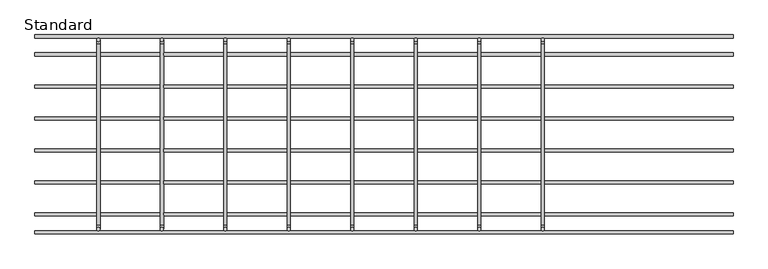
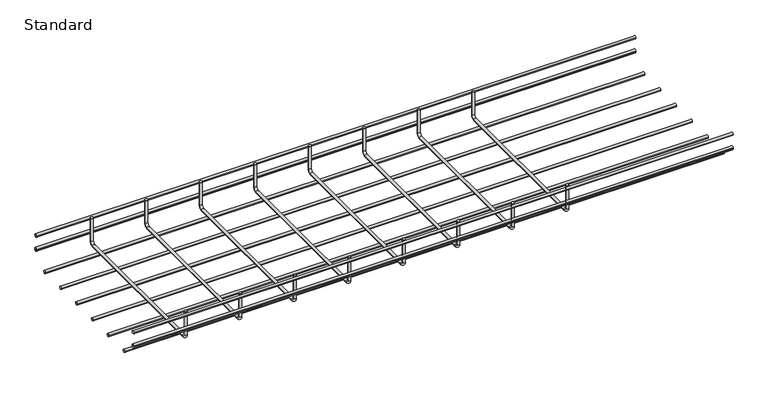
"""IFC4 building model written with IfcOpenShell, lengths in millimetres: cable carrier fitting geometry, CableTray_Atkore-Straight-Length : Standard."""

from ifc_helpers import new_model, si_unit, point, frame, frame_2d, origin, place, context, project, spatial, circle_curve, ellipse_curve, trimmed, segment, composite_curve, outline, extrude, source, transform, mapped, element, save
from ifc_brep_helpers import plane_surface, cylinder_surface, revolved_surface, advanced_brep


def standard_7ae58fae(model_context):
    return source(origin(), model_context, "Body", "SolidModel", [
        extrude(outline(composite_curve([segment(trimmed(circle_curve(frame_2d((73.4025, -25.9357812)), 2.54), [point((70.8625, -25.9357812))], [point((75.9425, -25.9357812))], False, "CARTESIAN"), True, "CONTINUOUS"), segment(trimmed(circle_curve(frame_2d((73.4025, -25.9357812)), 2.54), [point((75.9425, -25.9357812))], [point((70.8625, -25.9357812))], False, "CARTESIAN"), True, "CONTINUOUS")], self_intersect=False)), frame((0.0, 0.0, 0.0), z_axis=(1.0, 0.0, 0.0), x_axis=(0.0, 1.0, 0.0)), (0.0, 0.0, 1.0), 1067.1706596),
        extrude(outline(composite_curve([segment(trimmed(circle_curve(frame_2d((24.4675, -25.9357812)), 2.54), [point((21.9275, -25.9357812))], [point((27.0075, -25.9357812))], False, "CARTESIAN"), True, "CONTINUOUS"), segment(trimmed(circle_curve(frame_2d((24.4675, -25.9357812)), 2.54), [point((27.0075, -25.9357812))], [point((21.9275, -25.9357812))], False, "CARTESIAN"), True, "CONTINUOUS")], self_intersect=False)), frame((0.0, 0.0, 0.0), z_axis=(1.0, 0.0, 0.0), x_axis=(0.0, 1.0, 0.0)), (0.0, 0.0, 1.0), 1067.1706596),
        extrude(outline(composite_curve([segment(trimmed(circle_curve(frame_2d((-24.4675, -25.9357812)), 2.54), [point((-27.0075, -25.9357812))], [point((-21.9275, -25.9357812))], False, "CARTESIAN"), True, "CONTINUOUS"), segment(trimmed(circle_curve(frame_2d((-24.4675, -25.9357812)), 2.54), [point((-21.9275, -25.9357812))], [point((-27.0075, -25.9357812))], False, "CARTESIAN"), True, "CONTINUOUS")], self_intersect=False)), frame((0.0, 0.0, 0.0), z_axis=(1.0, 0.0, 0.0), x_axis=(0.0, 1.0, 0.0)), (0.0, 0.0, 1.0), 1067.1706596),
        extrude(outline(composite_curve([segment(trimmed(circle_curve(frame_2d((-73.4025, -25.9357812)), 2.54), [point((-75.9425, -25.9357812))], [point((-70.8625, -25.9357812))], False, "CARTESIAN"), True, "CONTINUOUS"), segment(trimmed(circle_curve(frame_2d((-73.4025, -25.9357812)), 2.54), [point((-70.8625, -25.9357812))], [point((-75.9425, -25.9357812))], False, "CARTESIAN"), True, "CONTINUOUS")], self_intersect=False)), frame((0.0, 0.0, 0.0), z_axis=(1.0, 0.0, 0.0), x_axis=(0.0, 1.0, 0.0)), (0.0, 0.0, 1.0), 1067.1706596),
        advanced_brep(
        [(94.4755145, -144.88, 28.4757813), (99.5555145, -144.88, 28.4757813), (94.4755145, -144.88, -14.8133594), (99.5555145, -144.88, -14.8133594), (99.5555145, -138.8375781, -20.8557812), (94.4755145, -138.8375781, -20.8557812), (94.4755145, 138.53, -20.8557812), (99.5555145, 138.53, -20.8557812), (99.5555145, 144.88, -14.5057812), (94.4755145, 144.88, -14.5057812), (94.4755145, 144.88, 28.4757813), (99.5555145, 144.88, 28.4757813)],
        [
            (0, 1, circle_curve(frame((97.0155145, -144.88, 28.4757813), z_axis=(0.0, 0.0, 1.0), x_axis=(1.0, 0.0, 0.0)), 2.54)),
            (1, 0, circle_curve(frame((97.0155145, -144.88, 28.4757813), z_axis=(0.0, 0.0, 1.0), x_axis=(1.0, 0.0, 0.0)), 2.54)),
            (0, 2),
            (2, 3, circle_curve(frame((97.0155145, -144.88, -14.8133594), z_axis=(0.0, 0.0, 1.0), x_axis=(1.0, 0.0, 0.0)), 2.54)),
            (3, 1),
            (3, 2, circle_curve(frame((97.0155145, -144.88, -14.8133594), z_axis=(0.0, 0.0, 1.0), x_axis=(1.0, 0.0, 0.0)), 2.54)),
            (4, 3, circle_curve(frame((99.5555145, -138.8375781, -14.8133594), z_axis=(-1.0, 0.0, 0.0), x_axis=(0.0, -1.0, 0.0)), 6.0424219)),
            (2, 5, circle_curve(frame((94.4755145, -138.8375781, -14.8133594), z_axis=(1.0, 0.0, 0.0), x_axis=(0.0, -1.0, 0.0)), 6.0424219)),
            (5, 4, circle_curve(frame((97.0155145, -138.8375781, -20.8557812), z_axis=(0.0, -1.0, 0.0), x_axis=(1.0, 0.0, 0.0)), 2.54)),
            (4, 5, circle_curve(frame((97.0155145, -138.8375781, -20.8557812), z_axis=(0.0, -1.0, 0.0), x_axis=(1.0, 0.0, 0.0)), 2.54)),
            (5, 6),
            (6, 7, circle_curve(frame((97.0155145, 138.53, -20.8557812), z_axis=(0.0, -1.0, 0.0), x_axis=(1.0, 0.0, 0.0)), 2.54)),
            (7, 4),
            (7, 6, circle_curve(frame((97.0155145, 138.53, -20.8557812), z_axis=(0.0, -1.0, 0.0), x_axis=(1.0, 0.0, 0.0)), 2.54)),
            (8, 7, circle_curve(frame((99.5555145, 138.53, -14.5057812), z_axis=(-1.0, 0.0, 0.0), x_axis=(0.0, 0.0, -1.0)), 6.35)),
            (6, 9, circle_curve(frame((94.4755145, 138.53, -14.5057812), z_axis=(1.0, 0.0, 0.0), x_axis=(0.0, 0.0, -1.0)), 6.35)),
            (9, 8, circle_curve(frame((97.0155145, 144.88, -14.5057812), z_axis=(0.0, 0.0, -1.0), x_axis=(1.0, 0.0, 0.0)), 2.54)),
            (8, 9, circle_curve(frame((97.0155145, 144.88, -14.5057812), z_axis=(0.0, 0.0, -1.0), x_axis=(1.0, 0.0, 0.0)), 2.54)),
            (10, 11, circle_curve(frame((97.0155145, 144.88, 28.4757813), z_axis=(0.0, 0.0, 1.0), x_axis=(1.0, 0.0, 0.0)), 2.54)),
            (11, 10, circle_curve(frame((97.0155145, 144.88, 28.4757813), z_axis=(0.0, 0.0, 1.0), x_axis=(1.0, 0.0, 0.0)), 2.54)),
            (9, 10),
            (11, 8),
        ],
        [
            plane_surface(frame((97.0155145, -144.88, 28.4757813), z_axis=(0.0, 0.0, 1.0), x_axis=(1.0, 0.0, 0.0))),
            cylinder_surface(frame((97.0155145, -144.88, 28.4757813), z_axis=(0.0, 0.0, 1.0), x_axis=(1.0, 0.0, 0.0)), 2.54),
            revolved_surface(trimmed(ellipse_curve(frame((97.0155145, -144.88, -14.8133594), z_axis=(0.0, 0.0, 1.0), x_axis=(1.0, 0.0, 0.0)), 2.54, 2.54), [point((94.4755145, -144.88, -14.8133594))], [point((99.5555145, -144.88, -14.8133594))], True, "CARTESIAN"), (97.0155145, -138.8375781, -14.8133594), (1.0, 0.0, 0.0)),
            revolved_surface(trimmed(ellipse_curve(frame((97.0155145, -144.88, -14.8133594), z_axis=(0.0, 0.0, 1.0), x_axis=(1.0, 0.0, 0.0)), 2.54, 2.54), [point((99.5555145, -144.88, -14.8133594))], [point((94.4755145, -144.88, -14.8133594))], True, "CARTESIAN"), (97.0155145, -138.8375781, -14.8133594), (1.0, 0.0, 0.0)),
            cylinder_surface(frame((97.0155145, -138.8375781, -20.8557812), z_axis=(0.0, -1.0, 0.0), x_axis=(1.0, 0.0, 0.0)), 2.54),
            revolved_surface(trimmed(ellipse_curve(frame((97.0155145, 138.53, -20.8557812), z_axis=(0.0, -1.0, 0.0), x_axis=(1.0, 0.0, 0.0)), 2.54, 2.54), [point((94.4755145, 138.53, -20.8557812))], [point((99.5555145, 138.53, -20.8557812))], True, "CARTESIAN"), (97.0155145, 138.53, -14.5057812), (1.0, 0.0, 0.0)),
            revolved_surface(trimmed(ellipse_curve(frame((97.0155145, 138.53, -20.8557812), z_axis=(0.0, -1.0, 0.0), x_axis=(1.0, 0.0, 0.0)), 2.54, 2.54), [point((99.5555145, 138.53, -20.8557812))], [point((94.4755145, 138.53, -20.8557812))], True, "CARTESIAN"), (97.0155145, 138.53, -14.5057812), (1.0, 0.0, 0.0)),
            plane_surface(frame((97.0155145, 144.88, 28.4757813), z_axis=(0.0, 0.0, 1.0), x_axis=(1.0, 0.0, 0.0))),
            cylinder_surface(frame((97.0155145, 144.88, -14.5057812), z_axis=(0.0, 0.0, -1.0), x_axis=(1.0, 0.0, 0.0)), 2.54),
        ],
        [
            (0, [[1, 2]]),
            (1, [[-1, 3, 4, 5]]),
            (1, [[-2, -5, 6, -3]]),
            (2, [[7, -4, 8, 9]]),
            (3, [[-8, -6, -7, 10]]),
            (4, [[-9, 11, 12, 13]]),
            (4, [[-10, -13, 14, -11]]),
            (5, [[15, -12, 16, 17]]),
            (6, [[-16, -14, -15, 18]]),
            (7, [[19, 20]]),
            (8, [[-17, 21, -20, 22]]),
            (8, [[-18, -22, -19, -21]]),
        ],
    ),
        advanced_brep(
        [(191.491029, -144.88, 28.4757813), (196.571029, -144.88, 28.4757813), (191.491029, -144.88, -14.8133594), (196.571029, -144.88, -14.8133594), (196.571029, -138.8375781, -20.8557812), (191.491029, -138.8375781, -20.8557812), (191.491029, 138.53, -20.8557812), (196.571029, 138.53, -20.8557812), (196.571029, 144.88, -14.5057812), (191.491029, 144.88, -14.5057812), (191.491029, 144.88, 28.4757813), (196.571029, 144.88, 28.4757813)],
        [
            (0, 1, circle_curve(frame((194.031029, -144.88, 28.4757813), z_axis=(0.0, 0.0, 1.0), x_axis=(1.0, 0.0, 0.0)), 2.54)),
            (1, 0, circle_curve(frame((194.031029, -144.88, 28.4757813), z_axis=(0.0, 0.0, 1.0), x_axis=(1.0, 0.0, 0.0)), 2.54)),
            (0, 2),
            (2, 3, circle_curve(frame((194.031029, -144.88, -14.8133594), z_axis=(0.0, 0.0, 1.0), x_axis=(1.0, 0.0, 0.0)), 2.54)),
            (3, 1),
            (3, 2, circle_curve(frame((194.031029, -144.88, -14.8133594), z_axis=(0.0, 0.0, 1.0), x_axis=(1.0, 0.0, 0.0)), 2.54)),
            (4, 3, circle_curve(frame((196.571029, -138.8375781, -14.8133594), z_axis=(-1.0, 0.0, 0.0), x_axis=(0.0, -1.0, 0.0)), 6.0424219)),
            (2, 5, circle_curve(frame((191.491029, -138.8375781, -14.8133594), z_axis=(1.0, 0.0, 0.0), x_axis=(0.0, -1.0, 0.0)), 6.0424219)),
            (5, 4, circle_curve(frame((194.031029, -138.8375781, -20.8557812), z_axis=(0.0, -1.0, 0.0), x_axis=(1.0, 0.0, 0.0)), 2.54)),
            (4, 5, circle_curve(frame((194.031029, -138.8375781, -20.8557812), z_axis=(0.0, -1.0, 0.0), x_axis=(1.0, 0.0, 0.0)), 2.54)),
            (5, 6),
            (6, 7, circle_curve(frame((194.031029, 138.53, -20.8557812), z_axis=(0.0, -1.0, 0.0), x_axis=(1.0, 0.0, 0.0)), 2.54)),
            (7, 4),
            (7, 6, circle_curve(frame((194.031029, 138.53, -20.8557812), z_axis=(0.0, -1.0, 0.0), x_axis=(1.0, 0.0, 0.0)), 2.54)),
            (8, 7, circle_curve(frame((196.571029, 138.53, -14.5057812), z_axis=(-1.0, 0.0, 0.0), x_axis=(0.0, 0.0, -1.0)), 6.35)),
            (6, 9, circle_curve(frame((191.491029, 138.53, -14.5057812), z_axis=(1.0, 0.0, 0.0), x_axis=(0.0, 0.0, -1.0)), 6.35)),
            (9, 8, circle_curve(frame((194.031029, 144.88, -14.5057812), z_axis=(0.0, 0.0, -1.0), x_axis=(1.0, 0.0, 0.0)), 2.54)),
            (8, 9, circle_curve(frame((194.031029, 144.88, -14.5057812), z_axis=(0.0, 0.0, -1.0), x_axis=(1.0, 0.0, 0.0)), 2.54)),
            (10, 11, circle_curve(frame((194.031029, 144.88, 28.4757813), z_axis=(0.0, 0.0, 1.0), x_axis=(1.0, 0.0, 0.0)), 2.54)),
            (11, 10, circle_curve(frame((194.031029, 144.88, 28.4757813), z_axis=(0.0, 0.0, 1.0), x_axis=(1.0, 0.0, 0.0)), 2.54)),
            (9, 10),
            (11, 8),
        ],
        [
            plane_surface(frame((194.031029, -144.88, 28.4757813), z_axis=(0.0, 0.0, 1.0), x_axis=(1.0, 0.0, 0.0))),
            cylinder_surface(frame((194.031029, -144.88, 28.4757813), z_axis=(0.0, 0.0, 1.0), x_axis=(1.0, 0.0, 0.0)), 2.54),
            revolved_surface(trimmed(ellipse_curve(frame((194.031029, -144.88, -14.8133594), z_axis=(0.0, 0.0, 1.0), x_axis=(1.0, 0.0, 0.0)), 2.54, 2.54), [point((191.491029, -144.88, -14.8133594))], [point((196.571029, -144.88, -14.8133594))], True, "CARTESIAN"), (194.031029, -138.8375781, -14.8133594), (1.0, 0.0, 0.0)),
            revolved_surface(trimmed(ellipse_curve(frame((194.031029, -144.88, -14.8133594), z_axis=(0.0, 0.0, 1.0), x_axis=(1.0, 0.0, 0.0)), 2.54, 2.54), [point((196.571029, -144.88, -14.8133594))], [point((191.491029, -144.88, -14.8133594))], True, "CARTESIAN"), (194.031029, -138.8375781, -14.8133594), (1.0, 0.0, 0.0)),
            cylinder_surface(frame((194.031029, -138.8375781, -20.8557812), z_axis=(0.0, -1.0, 0.0), x_axis=(1.0, 0.0, 0.0)), 2.54),
            revolved_surface(trimmed(ellipse_curve(frame((194.031029, 138.53, -20.8557812), z_axis=(0.0, -1.0, 0.0), x_axis=(1.0, 0.0, 0.0)), 2.54, 2.54), [point((191.491029, 138.53, -20.8557812))], [point((196.571029, 138.53, -20.8557812))], True, "CARTESIAN"), (194.031029, 138.53, -14.5057812), (1.0, 0.0, 0.0)),
            revolved_surface(trimmed(ellipse_curve(frame((194.031029, 138.53, -20.8557812), z_axis=(0.0, -1.0, 0.0), x_axis=(1.0, 0.0, 0.0)), 2.54, 2.54), [point((196.571029, 138.53, -20.8557812))], [point((191.491029, 138.53, -20.8557812))], True, "CARTESIAN"), (194.031029, 138.53, -14.5057812), (1.0, 0.0, 0.0)),
            plane_surface(frame((194.031029, 144.88, 28.4757813), z_axis=(0.0, 0.0, 1.0), x_axis=(1.0, 0.0, 0.0))),
            cylinder_surface(frame((194.031029, 144.88, -14.5057812), z_axis=(0.0, 0.0, -1.0), x_axis=(1.0, 0.0, 0.0)), 2.54),
        ],
        [
            (0, [[1, 2]]),
            (1, [[-1, 3, 4, 5]]),
            (1, [[-2, -5, 6, -3]]),
            (2, [[7, -4, 8, 9]]),
            (3, [[-8, -6, -7, 10]]),
            (4, [[-9, 11, 12, 13]]),
            (4, [[-10, -13, 14, -11]]),
            (5, [[15, -12, 16, 17]]),
            (6, [[-16, -14, -15, 18]]),
            (7, [[19, 20]]),
            (8, [[-17, 21, -20, 22]]),
            (8, [[-18, -22, -19, -21]]),
        ],
    ),
        advanced_brep(
        [(288.5065435, -144.88, 28.4757813), (293.5865435, -144.88, 28.4757813), (288.5065435, -144.88, -14.8133594), (293.5865435, -144.88, -14.8133594), (293.5865435, -138.8375781, -20.8557812), (288.5065435, -138.8375781, -20.8557812), (288.5065435, 138.53, -20.8557812), (293.5865435, 138.53, -20.8557812), (293.5865435, 144.88, -14.5057812), (288.5065435, 144.88, -14.5057812), (288.5065435, 144.88, 28.4757813), (293.5865435, 144.88, 28.4757813)],
        [
            (0, 1, circle_curve(frame((291.0465435, -144.88, 28.4757813), z_axis=(0.0, 0.0, 1.0), x_axis=(1.0, 0.0, 0.0)), 2.54)),
            (1, 0, circle_curve(frame((291.0465435, -144.88, 28.4757813), z_axis=(0.0, 0.0, 1.0), x_axis=(1.0, 0.0, 0.0)), 2.54)),
            (0, 2),
            (2, 3, circle_curve(frame((291.0465435, -144.88, -14.8133594), z_axis=(0.0, 0.0, 1.0), x_axis=(1.0, 0.0, 0.0)), 2.54)),
            (3, 1),
            (3, 2, circle_curve(frame((291.0465435, -144.88, -14.8133594), z_axis=(0.0, 0.0, 1.0), x_axis=(1.0, 0.0, 0.0)), 2.54)),
            (4, 3, circle_curve(frame((293.5865435, -138.8375781, -14.8133594), z_axis=(-1.0, 0.0, 0.0), x_axis=(0.0, -1.0, 0.0)), 6.0424219)),
            (2, 5, circle_curve(frame((288.5065435, -138.8375781, -14.8133594), z_axis=(1.0, 0.0, 0.0), x_axis=(0.0, -1.0, 0.0)), 6.0424219)),
            (5, 4, circle_curve(frame((291.0465435, -138.8375781, -20.8557812), z_axis=(0.0, -1.0, 0.0), x_axis=(1.0, 0.0, 0.0)), 2.54)),
            (4, 5, circle_curve(frame((291.0465435, -138.8375781, -20.8557812), z_axis=(0.0, -1.0, 0.0), x_axis=(1.0, 0.0, 0.0)), 2.54)),
            (5, 6),
            (6, 7, circle_curve(frame((291.0465435, 138.53, -20.8557812), z_axis=(0.0, -1.0, 0.0), x_axis=(1.0, 0.0, 0.0)), 2.54)),
            (7, 4),
            (7, 6, circle_curve(frame((291.0465435, 138.53, -20.8557812), z_axis=(0.0, -1.0, 0.0), x_axis=(1.0, 0.0, 0.0)), 2.54)),
            (8, 7, circle_curve(frame((293.5865435, 138.53, -14.5057812), z_axis=(-1.0, 0.0, 0.0), x_axis=(0.0, 0.0, -1.0)), 6.35)),
            (6, 9, circle_curve(frame((288.5065435, 138.53, -14.5057812), z_axis=(1.0, 0.0, 0.0), x_axis=(0.0, 0.0, -1.0)), 6.35)),
            (9, 8, circle_curve(frame((291.0465435, 144.88, -14.5057812), z_axis=(0.0, 0.0, -1.0), x_axis=(1.0, 0.0, 0.0)), 2.54)),
            (8, 9, circle_curve(frame((291.0465435, 144.88, -14.5057812), z_axis=(0.0, 0.0, -1.0), x_axis=(1.0, 0.0, 0.0)), 2.54)),
            (10, 11, circle_curve(frame((291.0465435, 144.88, 28.4757813), z_axis=(0.0, 0.0, 1.0), x_axis=(1.0, 0.0, 0.0)), 2.54)),
            (11, 10, circle_curve(frame((291.0465435, 144.88, 28.4757813), z_axis=(0.0, 0.0, 1.0), x_axis=(1.0, 0.0, 0.0)), 2.54)),
            (9, 10),
            (11, 8),
        ],
        [
            plane_surface(frame((291.0465435, -144.88, 28.4757813), z_axis=(0.0, 0.0, 1.0), x_axis=(1.0, 0.0, 0.0))),
            cylinder_surface(frame((291.0465435, -144.88, 28.4757813), z_axis=(0.0, 0.0, 1.0), x_axis=(1.0, 0.0, 0.0)), 2.54),
            revolved_surface(trimmed(ellipse_curve(frame((291.0465435, -144.88, -14.8133594), z_axis=(0.0, 0.0, 1.0), x_axis=(1.0, 0.0, 0.0)), 2.54, 2.54), [point((288.5065435, -144.88, -14.8133594))], [point((293.5865435, -144.88, -14.8133594))], True, "CARTESIAN"), (291.0465435, -138.8375781, -14.8133594), (1.0, 0.0, 0.0)),
            revolved_surface(trimmed(ellipse_curve(frame((291.0465435, -144.88, -14.8133594), z_axis=(0.0, 0.0, 1.0), x_axis=(1.0, 0.0, 0.0)), 2.54, 2.54), [point((293.5865435, -144.88, -14.8133594))], [point((288.5065435, -144.88, -14.8133594))], True, "CARTESIAN"), (291.0465435, -138.8375781, -14.8133594), (1.0, 0.0, 0.0)),
            cylinder_surface(frame((291.0465435, -138.8375781, -20.8557812), z_axis=(0.0, -1.0, 0.0), x_axis=(1.0, 0.0, 0.0)), 2.54),
            revolved_surface(trimmed(ellipse_curve(frame((291.0465435, 138.53, -20.8557812), z_axis=(0.0, -1.0, 0.0), x_axis=(1.0, 0.0, 0.0)), 2.54, 2.54), [point((288.5065435, 138.53, -20.8557812))], [point((293.5865435, 138.53, -20.8557812))], True, "CARTESIAN"), (291.0465435, 138.53, -14.5057812), (1.0, 0.0, 0.0)),
            revolved_surface(trimmed(ellipse_curve(frame((291.0465435, 138.53, -20.8557812), z_axis=(0.0, -1.0, 0.0), x_axis=(1.0, 0.0, 0.0)), 2.54, 2.54), [point((293.5865435, 138.53, -20.8557812))], [point((288.5065435, 138.53, -20.8557812))], True, "CARTESIAN"), (291.0465435, 138.53, -14.5057812), (1.0, 0.0, 0.0)),
            plane_surface(frame((291.0465435, 144.88, 28.4757813), z_axis=(0.0, 0.0, 1.0), x_axis=(1.0, 0.0, 0.0))),
            cylinder_surface(frame((291.0465435, 144.88, -14.5057812), z_axis=(0.0, 0.0, -1.0), x_axis=(1.0, 0.0, 0.0)), 2.54),
        ],
        [
            (0, [[1, 2]]),
            (1, [[-1, 3, 4, 5]]),
            (1, [[-2, -5, 6, -3]]),
            (2, [[7, -4, 8, 9]]),
            (3, [[-8, -6, -7, 10]]),
            (4, [[-9, 11, 12, 13]]),
            (4, [[-10, -13, 14, -11]]),
            (5, [[15, -12, 16, 17]]),
            (6, [[-16, -14, -15, 18]]),
            (7, [[19, 20]]),
            (8, [[-17, 21, -20, 22]]),
            (8, [[-18, -22, -19, -21]]),
        ],
    ),
        advanced_brep(
        [(385.522058, -144.88, 28.4757813), (390.602058, -144.88, 28.4757813), (385.522058, -144.88, -14.8133594), (390.602058, -144.88, -14.8133594), (390.602058, -138.8375781, -20.8557812), (385.522058, -138.8375781, -20.8557812), (385.522058, 138.53, -20.8557812), (390.602058, 138.53, -20.8557812), (390.602058, 144.88, -14.5057812), (385.522058, 144.88, -14.5057812), (385.522058, 144.88, 28.4757813), (390.602058, 144.88, 28.4757813)],
        [
            (0, 1, circle_curve(frame((388.062058, -144.88, 28.4757813), z_axis=(0.0, 0.0, 1.0), x_axis=(1.0, 0.0, 0.0)), 2.54)),
            (1, 0, circle_curve(frame((388.062058, -144.88, 28.4757813), z_axis=(0.0, 0.0, 1.0), x_axis=(1.0, 0.0, 0.0)), 2.54)),
            (0, 2),
            (2, 3, circle_curve(frame((388.062058, -144.88, -14.8133594), z_axis=(0.0, 0.0, 1.0), x_axis=(1.0, 0.0, 0.0)), 2.54)),
            (3, 1),
            (3, 2, circle_curve(frame((388.062058, -144.88, -14.8133594), z_axis=(0.0, 0.0, 1.0), x_axis=(1.0, 0.0, 0.0)), 2.54)),
            (4, 3, circle_curve(frame((390.602058, -138.8375781, -14.8133594), z_axis=(-1.0, 0.0, 0.0), x_axis=(0.0, -1.0, 0.0)), 6.0424219)),
            (2, 5, circle_curve(frame((385.522058, -138.8375781, -14.8133594), z_axis=(1.0, 0.0, 0.0), x_axis=(0.0, -1.0, 0.0)), 6.0424219)),
            (5, 4, circle_curve(frame((388.062058, -138.8375781, -20.8557812), z_axis=(0.0, -1.0, 0.0), x_axis=(1.0, 0.0, 0.0)), 2.54)),
            (4, 5, circle_curve(frame((388.062058, -138.8375781, -20.8557812), z_axis=(0.0, -1.0, 0.0), x_axis=(1.0, 0.0, 0.0)), 2.54)),
            (5, 6),
            (6, 7, circle_curve(frame((388.062058, 138.53, -20.8557812), z_axis=(0.0, -1.0, 0.0), x_axis=(1.0, 0.0, 0.0)), 2.54)),
            (7, 4),
            (7, 6, circle_curve(frame((388.062058, 138.53, -20.8557812), z_axis=(0.0, -1.0, 0.0), x_axis=(1.0, 0.0, 0.0)), 2.54)),
            (8, 7, circle_curve(frame((390.602058, 138.53, -14.5057812), z_axis=(-1.0, 0.0, 0.0), x_axis=(0.0, 0.0, -1.0)), 6.35)),
            (6, 9, circle_curve(frame((385.522058, 138.53, -14.5057812), z_axis=(1.0, 0.0, 0.0), x_axis=(0.0, 0.0, -1.0)), 6.35)),
            (9, 8, circle_curve(frame((388.062058, 144.88, -14.5057812), z_axis=(0.0, 0.0, -1.0), x_axis=(1.0, 0.0, 0.0)), 2.54)),
            (8, 9, circle_curve(frame((388.062058, 144.88, -14.5057812), z_axis=(0.0, 0.0, -1.0), x_axis=(1.0, 0.0, 0.0)), 2.54)),
            (10, 11, circle_curve(frame((388.062058, 144.88, 28.4757813), z_axis=(0.0, 0.0, 1.0), x_axis=(1.0, 0.0, 0.0)), 2.54)),
            (11, 10, circle_curve(frame((388.062058, 144.88, 28.4757813), z_axis=(0.0, 0.0, 1.0), x_axis=(1.0, 0.0, 0.0)), 2.54)),
            (9, 10),
            (11, 8),
        ],
        [
            plane_surface(frame((388.062058, -144.88, 28.4757813), z_axis=(0.0, 0.0, 1.0), x_axis=(1.0, 0.0, 0.0))),
            cylinder_surface(frame((388.062058, -144.88, 28.4757813), z_axis=(0.0, 0.0, 1.0), x_axis=(1.0, 0.0, 0.0)), 2.54),
            revolved_surface(trimmed(ellipse_curve(frame((388.062058, -144.88, -14.8133594), z_axis=(0.0, 0.0, 1.0), x_axis=(1.0, 0.0, 0.0)), 2.54, 2.54), [point((385.522058, -144.88, -14.8133594))], [point((390.602058, -144.88, -14.8133594))], True, "CARTESIAN"), (388.062058, -138.8375781, -14.8133594), (1.0, 0.0, 0.0)),
            revolved_surface(trimmed(ellipse_curve(frame((388.062058, -144.88, -14.8133594), z_axis=(0.0, 0.0, 1.0), x_axis=(1.0, 0.0, 0.0)), 2.54, 2.54), [point((390.602058, -144.88, -14.8133594))], [point((385.522058, -144.88, -14.8133594))], True, "CARTESIAN"), (388.062058, -138.8375781, -14.8133594), (1.0, 0.0, 0.0)),
            cylinder_surface(frame((388.062058, -138.8375781, -20.8557812), z_axis=(0.0, -1.0, 0.0), x_axis=(1.0, 0.0, 0.0)), 2.54),
            revolved_surface(trimmed(ellipse_curve(frame((388.062058, 138.53, -20.8557812), z_axis=(0.0, -1.0, 0.0), x_axis=(1.0, 0.0, 0.0)), 2.54, 2.54), [point((385.522058, 138.53, -20.8557812))], [point((390.602058, 138.53, -20.8557812))], True, "CARTESIAN"), (388.062058, 138.53, -14.5057812), (1.0, 0.0, 0.0)),
            revolved_surface(trimmed(ellipse_curve(frame((388.062058, 138.53, -20.8557812), z_axis=(0.0, -1.0, 0.0), x_axis=(1.0, 0.0, 0.0)), 2.54, 2.54), [point((390.602058, 138.53, -20.8557812))], [point((385.522058, 138.53, -20.8557812))], True, "CARTESIAN"), (388.062058, 138.53, -14.5057812), (1.0, 0.0, 0.0)),
            plane_surface(frame((388.062058, 144.88, 28.4757813), z_axis=(0.0, 0.0, 1.0), x_axis=(1.0, 0.0, 0.0))),
            cylinder_surface(frame((388.062058, 144.88, -14.5057812), z_axis=(0.0, 0.0, -1.0), x_axis=(1.0, 0.0, 0.0)), 2.54),
        ],
        [
            (0, [[1, 2]]),
            (1, [[-1, 3, 4, 5]]),
            (1, [[-2, -5, 6, -3]]),
            (2, [[7, -4, 8, 9]]),
            (3, [[-8, -6, -7, 10]]),
            (4, [[-9, 11, 12, 13]]),
            (4, [[-10, -13, 14, -11]]),
            (5, [[15, -12, 16, 17]]),
            (6, [[-16, -14, -15, 18]]),
            (7, [[19, 20]]),
            (8, [[-17, 21, -20, 22]]),
            (8, [[-18, -22, -19, -21]]),
        ],
    ),
        advanced_brep(
        [(482.5375725, -144.88, 28.4757813), (487.6175725, -144.88, 28.4757813), (482.5375725, -144.88, -14.8133594), (487.6175725, -144.88, -14.8133594), (487.6175725, -138.8375781, -20.8557812), (482.5375725, -138.8375781, -20.8557812), (482.5375725, 138.53, -20.8557812), (487.6175725, 138.53, -20.8557812), (487.6175725, 144.88, -14.5057812), (482.5375725, 144.88, -14.5057812), (482.5375725, 144.88, 28.4757813), (487.6175725, 144.88, 28.4757813)],
        [
            (0, 1, circle_curve(frame((485.0775725, -144.88, 28.4757813), z_axis=(0.0, 0.0, 1.0), x_axis=(1.0, 0.0, 0.0)), 2.54)),
            (1, 0, circle_curve(frame((485.0775725, -144.88, 28.4757813), z_axis=(0.0, 0.0, 1.0), x_axis=(1.0, 0.0, 0.0)), 2.54)),
            (0, 2),
            (2, 3, circle_curve(frame((485.0775725, -144.88, -14.8133594), z_axis=(0.0, 0.0, 1.0), x_axis=(1.0, 0.0, 0.0)), 2.54)),
            (3, 1),
            (3, 2, circle_curve(frame((485.0775725, -144.88, -14.8133594), z_axis=(0.0, 0.0, 1.0), x_axis=(1.0, 0.0, 0.0)), 2.54)),
            (4, 3, circle_curve(frame((487.6175725, -138.8375781, -14.8133594), z_axis=(-1.0, 0.0, 0.0), x_axis=(0.0, -1.0, 0.0)), 6.0424219)),
            (2, 5, circle_curve(frame((482.5375725, -138.8375781, -14.8133594), z_axis=(1.0, 0.0, 0.0), x_axis=(0.0, -1.0, 0.0)), 6.0424219)),
            (5, 4, circle_curve(frame((485.0775725, -138.8375781, -20.8557812), z_axis=(0.0, -1.0, 0.0), x_axis=(1.0, 0.0, 0.0)), 2.54)),
            (4, 5, circle_curve(frame((485.0775725, -138.8375781, -20.8557812), z_axis=(0.0, -1.0, 0.0), x_axis=(1.0, 0.0, 0.0)), 2.54)),
            (5, 6),
            (6, 7, circle_curve(frame((485.0775725, 138.53, -20.8557812), z_axis=(0.0, -1.0, 0.0), x_axis=(1.0, 0.0, 0.0)), 2.54)),
            (7, 4),
            (7, 6, circle_curve(frame((485.0775725, 138.53, -20.8557812), z_axis=(0.0, -1.0, 0.0), x_axis=(1.0, 0.0, 0.0)), 2.54)),
            (8, 7, circle_curve(frame((487.6175725, 138.53, -14.5057812), z_axis=(-1.0, 0.0, 0.0), x_axis=(0.0, 0.0, -1.0)), 6.35)),
            (6, 9, circle_curve(frame((482.5375725, 138.53, -14.5057812), z_axis=(1.0, 0.0, 0.0), x_axis=(0.0, 0.0, -1.0)), 6.35)),
            (9, 8, circle_curve(frame((485.0775725, 144.88, -14.5057812), z_axis=(0.0, 0.0, -1.0), x_axis=(1.0, 0.0, 0.0)), 2.54)),
            (8, 9, circle_curve(frame((485.0775725, 144.88, -14.5057812), z_axis=(0.0, 0.0, -1.0), x_axis=(1.0, 0.0, 0.0)), 2.54)),
            (10, 11, circle_curve(frame((485.0775725, 144.88, 28.4757813), z_axis=(0.0, 0.0, 1.0), x_axis=(1.0, 0.0, 0.0)), 2.54)),
            (11, 10, circle_curve(frame((485.0775725, 144.88, 28.4757813), z_axis=(0.0, 0.0, 1.0), x_axis=(1.0, 0.0, 0.0)), 2.54)),
            (9, 10),
            (11, 8),
        ],
        [
            plane_surface(frame((485.0775725, -144.88, 28.4757813), z_axis=(0.0, 0.0, 1.0), x_axis=(1.0, 0.0, 0.0))),
            cylinder_surface(frame((485.0775725, -144.88, 28.4757813), z_axis=(0.0, 0.0, 1.0), x_axis=(1.0, 0.0, 0.0)), 2.54),
            revolved_surface(trimmed(ellipse_curve(frame((485.0775725, -144.88, -14.8133594), z_axis=(0.0, 0.0, 1.0), x_axis=(1.0, 0.0, 0.0)), 2.54, 2.54), [point((482.5375725, -144.88, -14.8133594))], [point((487.6175725, -144.88, -14.8133594))], True, "CARTESIAN"), (485.0775725, -138.8375781, -14.8133594), (1.0, 0.0, 0.0)),
            revolved_surface(trimmed(ellipse_curve(frame((485.0775725, -144.88, -14.8133594), z_axis=(0.0, 0.0, 1.0), x_axis=(1.0, 0.0, 0.0)), 2.54, 2.54), [point((487.6175725, -144.88, -14.8133594))], [point((482.5375725, -144.88, -14.8133594))], True, "CARTESIAN"), (485.0775725, -138.8375781, -14.8133594), (1.0, 0.0, 0.0)),
            cylinder_surface(frame((485.0775725, -138.8375781, -20.8557812), z_axis=(0.0, -1.0, 0.0), x_axis=(1.0, 0.0, 0.0)), 2.54),
            revolved_surface(trimmed(ellipse_curve(frame((485.0775725, 138.53, -20.8557812), z_axis=(0.0, -1.0, 0.0), x_axis=(1.0, 0.0, 0.0)), 2.54, 2.54), [point((482.5375725, 138.53, -20.8557812))], [point((487.6175725, 138.53, -20.8557812))], True, "CARTESIAN"), (485.0775725, 138.53, -14.5057812), (1.0, 0.0, 0.0)),
            revolved_surface(trimmed(ellipse_curve(frame((485.0775725, 138.53, -20.8557812), z_axis=(0.0, -1.0, 0.0), x_axis=(1.0, 0.0, 0.0)), 2.54, 2.54), [point((487.6175725, 138.53, -20.8557812))], [point((482.5375725, 138.53, -20.8557812))], True, "CARTESIAN"), (485.0775725, 138.53, -14.5057812), (1.0, 0.0, 0.0)),
            plane_surface(frame((485.0775725, 144.88, 28.4757813), z_axis=(0.0, 0.0, 1.0), x_axis=(1.0, 0.0, 0.0))),
            cylinder_surface(frame((485.0775725, 144.88, -14.5057812), z_axis=(0.0, 0.0, -1.0), x_axis=(1.0, 0.0, 0.0)), 2.54),
        ],
        [
            (0, [[1, 2]]),
            (1, [[-1, 3, 4, 5]]),
            (1, [[-2, -5, 6, -3]]),
            (2, [[7, -4, 8, 9]]),
            (3, [[-8, -6, -7, 10]]),
            (4, [[-9, 11, 12, 13]]),
            (4, [[-10, -13, 14, -11]]),
            (5, [[15, -12, 16, 17]]),
            (6, [[-16, -14, -15, 18]]),
            (7, [[19, 20]]),
            (8, [[-17, 21, -20, 22]]),
            (8, [[-18, -22, -19, -21]]),
        ],
    ),
        extrude(outline(composite_curve([segment(trimmed(circle_curve(frame_2d((149.96, 0.681454)), 2.54), [point((152.5, 0.681454))], [point((147.42, 0.681454))], False, "CARTESIAN"), True, "CONTINUOUS"), segment(trimmed(circle_curve(frame_2d((149.96, 0.681454)), 2.54), [point((147.42, 0.681454))], [point((152.5, 0.681454))], False, "CARTESIAN"), True, "CONTINUOUS")], self_intersect=False)), frame((0.0, 0.0, 0.0), z_axis=(1.0, 0.0, 0.0), x_axis=(0.0, 1.0, 0.0)), (0.0, 0.0, 1.0), 1067.1706596),
        extrude(outline(composite_curve([segment(trimmed(circle_curve(frame_2d((149.96, -1.0517187)), 2.54), [point((152.5, -1.0517187))], [point((147.42, -1.0517187))], False, "CARTESIAN"), True, "CONTINUOUS"), segment(trimmed(circle_curve(frame_2d((149.96, -1.0517187)), 2.54), [point((147.42, -1.0517187))], [point((152.5, -1.0517187))], False, "CARTESIAN"), True, "CONTINUOUS")], self_intersect=False)), frame((0.0, 0.0, 0.0), z_axis=(1.0, 0.0, 0.0), x_axis=(0.0, 1.0, 0.0)), (0.0, 0.0, 1.0), 1067.1706596),
        extrude(outline(composite_curve([segment(trimmed(circle_curve(frame_2d((-149.96, -1.0517187)), 2.54), [point((-152.5, -1.0517187))], [point((-147.42, -1.0517187))], False, "CARTESIAN"), True, "CONTINUOUS"), segment(trimmed(circle_curve(frame_2d((-149.96, -1.0517187)), 2.54), [point((-147.42, -1.0517187))], [point((-152.5, -1.0517187))], False, "CARTESIAN"), True, "CONTINUOUS")], self_intersect=False)), frame((0.0, 0.0, 0.0), z_axis=(1.0, 0.0, 0.0), x_axis=(0.0, 1.0, 0.0)), (0.0, 0.0, 1.0), 1067.1706596),
        extrude(outline(composite_curve([segment(trimmed(circle_curve(frame_2d((-149.96, 0.681454)), 2.54), [point((-152.5, 0.681454))], [point((-147.42, 0.681454))], False, "CARTESIAN"), True, "CONTINUOUS"), segment(trimmed(circle_curve(frame_2d((-149.96, 0.681454)), 2.54), [point((-147.42, 0.681454))], [point((-152.5, 0.681454))], False, "CARTESIAN"), True, "CONTINUOUS")], self_intersect=False)), frame((0.0, 0.0, 0.0), z_axis=(1.0, 0.0, 0.0), x_axis=(0.0, 1.0, 0.0)), (0.0, 0.0, 1.0), 1067.1706596),
        extrude(outline(composite_curve([segment(trimmed(circle_curve(frame_2d((122.3375, -25.9357812)), 2.54), [point((119.7975, -25.9357812))], [point((124.8775, -25.9357812))], False, "CARTESIAN"), True, "CONTINUOUS"), segment(trimmed(circle_curve(frame_2d((122.3375, -25.9357812)), 2.54), [point((124.8775, -25.9357812))], [point((119.7975, -25.9357812))], False, "CARTESIAN"), True, "CONTINUOUS")], self_intersect=False)), frame((0.0, 0.0, 0.0), z_axis=(1.0, 0.0, 0.0), x_axis=(0.0, 1.0, 0.0)), (0.0, 0.0, 1.0), 1067.1706596),
        advanced_brep(
        [(579.5530871, -144.88, 28.4757813), (584.6330871, -144.88, 28.4757813), (579.5530871, -144.88, -14.8133594), (584.6330871, -144.88, -14.8133594), (584.6330871, -138.8375781, -20.8557812), (579.5530871, -138.8375781, -20.8557812), (579.5530871, 138.53, -20.8557812), (584.6330871, 138.53, -20.8557812), (584.6330871, 144.88, -14.5057812), (579.5530871, 144.88, -14.5057812), (579.5530871, 144.88, 28.4757813), (584.6330871, 144.88, 28.4757813)],
        [
            (0, 1, circle_curve(frame((582.0930871, -144.88, 28.4757813), z_axis=(0.0, 0.0, 1.0), x_axis=(1.0, 0.0, 0.0)), 2.54)),
            (1, 0, circle_curve(frame((582.0930871, -144.88, 28.4757813), z_axis=(0.0, 0.0, 1.0), x_axis=(1.0, 0.0, 0.0)), 2.54)),
            (0, 2),
            (2, 3, circle_curve(frame((582.0930871, -144.88, -14.8133594), z_axis=(0.0, 0.0, 1.0), x_axis=(1.0, 0.0, 0.0)), 2.54)),
            (3, 1),
            (3, 2, circle_curve(frame((582.0930871, -144.88, -14.8133594), z_axis=(0.0, 0.0, 1.0), x_axis=(1.0, 0.0, 0.0)), 2.54)),
            (4, 3, circle_curve(frame((584.6330871, -138.8375781, -14.8133594), z_axis=(-1.0, 0.0, 0.0), x_axis=(0.0, -1.0, 0.0)), 6.0424219)),
            (2, 5, circle_curve(frame((579.5530871, -138.8375781, -14.8133594), z_axis=(1.0, 0.0, 0.0), x_axis=(0.0, -1.0, 0.0)), 6.0424219)),
            (5, 4, circle_curve(frame((582.0930871, -138.8375781, -20.8557812), z_axis=(0.0, -1.0, 0.0), x_axis=(1.0, 0.0, 0.0)), 2.54)),
            (4, 5, circle_curve(frame((582.0930871, -138.8375781, -20.8557812), z_axis=(0.0, -1.0, 0.0), x_axis=(1.0, 0.0, 0.0)), 2.54)),
            (5, 6),
            (6, 7, circle_curve(frame((582.0930871, 138.53, -20.8557812), z_axis=(0.0, -1.0, 0.0), x_axis=(1.0, 0.0, 0.0)), 2.54)),
            (7, 4),
            (7, 6, circle_curve(frame((582.0930871, 138.53, -20.8557812), z_axis=(0.0, -1.0, 0.0), x_axis=(1.0, 0.0, 0.0)), 2.54)),
            (8, 7, circle_curve(frame((584.6330871, 138.53, -14.5057812), z_axis=(-1.0, 0.0, 0.0), x_axis=(0.0, 0.0, -1.0)), 6.35)),
            (6, 9, circle_curve(frame((579.5530871, 138.53, -14.5057812), z_axis=(1.0, 0.0, 0.0), x_axis=(0.0, 0.0, -1.0)), 6.35)),
            (9, 8, circle_curve(frame((582.0930871, 144.88, -14.5057812), z_axis=(0.0, 0.0, -1.0), x_axis=(1.0, 0.0, 0.0)), 2.54)),
            (8, 9, circle_curve(frame((582.0930871, 144.88, -14.5057812), z_axis=(0.0, 0.0, -1.0), x_axis=(1.0, 0.0, 0.0)), 2.54)),
            (10, 11, circle_curve(frame((582.0930871, 144.88, 28.4757813), z_axis=(0.0, 0.0, 1.0), x_axis=(1.0, 0.0, 0.0)), 2.54)),
            (11, 10, circle_curve(frame((582.0930871, 144.88, 28.4757813), z_axis=(0.0, 0.0, 1.0), x_axis=(1.0, 0.0, 0.0)), 2.54)),
            (9, 10),
            (11, 8),
        ],
        [
            plane_surface(frame((582.0930871, -144.88, 28.4757813), z_axis=(0.0, 0.0, 1.0), x_axis=(1.0, 0.0, 0.0))),
            cylinder_surface(frame((582.0930871, -144.88, 28.4757813), z_axis=(0.0, 0.0, 1.0), x_axis=(1.0, 0.0, 0.0)), 2.54),
            revolved_surface(trimmed(ellipse_curve(frame((582.0930871, -144.88, -14.8133594), z_axis=(0.0, 0.0, 1.0), x_axis=(1.0, 0.0, 0.0)), 2.54, 2.54), [point((579.5530871, -144.88, -14.8133594))], [point((584.6330871, -144.88, -14.8133594))], True, "CARTESIAN"), (582.0930871, -138.8375781, -14.8133594), (1.0, 0.0, 0.0)),
            revolved_surface(trimmed(ellipse_curve(frame((582.0930871, -144.88, -14.8133594), z_axis=(0.0, 0.0, 1.0), x_axis=(1.0, 0.0, 0.0)), 2.54, 2.54), [point((584.6330871, -144.88, -14.8133594))], [point((579.5530871, -144.88, -14.8133594))], True, "CARTESIAN"), (582.0930871, -138.8375781, -14.8133594), (1.0, 0.0, 0.0)),
            cylinder_surface(frame((582.0930871, -138.8375781, -20.8557812), z_axis=(0.0, -1.0, 0.0), x_axis=(1.0, 0.0, 0.0)), 2.54),
            revolved_surface(trimmed(ellipse_curve(frame((582.0930871, 138.53, -20.8557812), z_axis=(0.0, -1.0, 0.0), x_axis=(1.0, 0.0, 0.0)), 2.54, 2.54), [point((579.5530871, 138.53, -20.8557812))], [point((584.6330871, 138.53, -20.8557812))], True, "CARTESIAN"), (582.0930871, 138.53, -14.5057812), (1.0, 0.0, 0.0)),
            revolved_surface(trimmed(ellipse_curve(frame((582.0930871, 138.53, -20.8557812), z_axis=(0.0, -1.0, 0.0), x_axis=(1.0, 0.0, 0.0)), 2.54, 2.54), [point((584.6330871, 138.53, -20.8557812))], [point((579.5530871, 138.53, -20.8557812))], True, "CARTESIAN"), (582.0930871, 138.53, -14.5057812), (1.0, 0.0, 0.0)),
            plane_surface(frame((582.0930871, 144.88, 28.4757813), z_axis=(0.0, 0.0, 1.0), x_axis=(1.0, 0.0, 0.0))),
            cylinder_surface(frame((582.0930871, 144.88, -14.5057812), z_axis=(0.0, 0.0, -1.0), x_axis=(1.0, 0.0, 0.0)), 2.54),
        ],
        [
            (0, [[1, 2]]),
            (1, [[-1, 3, 4, 5]]),
            (1, [[-2, -5, 6, -3]]),
            (2, [[7, -4, 8, 9]]),
            (3, [[-8, -6, -7, 10]]),
            (4, [[-9, 11, 12, 13]]),
            (4, [[-10, -13, 14, -11]]),
            (5, [[15, -12, 16, 17]]),
            (6, [[-16, -14, -15, 18]]),
            (7, [[19, 20]]),
            (8, [[-17, 21, -20, 22]]),
            (8, [[-18, -22, -19, -21]]),
        ],
    ),
        advanced_brep(
        [(676.5686016, -144.88, 28.4757813), (681.6486016, -144.88, 28.4757813), (676.5686016, -144.88, -14.8133594), (681.6486016, -144.88, -14.8133594), (681.6486016, -138.8375781, -20.8557812), (676.5686016, -138.8375781, -20.8557812), (676.5686016, 138.53, -20.8557812), (681.6486016, 138.53, -20.8557812), (681.6486016, 144.88, -14.5057812), (676.5686016, 144.88, -14.5057812), (676.5686016, 144.88, 28.4757813), (681.6486016, 144.88, 28.4757813)],
        [
            (0, 1, circle_curve(frame((679.1086016, -144.88, 28.4757813), z_axis=(0.0, 0.0, 1.0), x_axis=(1.0, 0.0, 0.0)), 2.54)),
            (1, 0, circle_curve(frame((679.1086016, -144.88, 28.4757813), z_axis=(0.0, 0.0, 1.0), x_axis=(1.0, 0.0, 0.0)), 2.54)),
            (0, 2),
            (2, 3, circle_curve(frame((679.1086016, -144.88, -14.8133594), z_axis=(0.0, 0.0, 1.0), x_axis=(1.0, 0.0, 0.0)), 2.54)),
            (3, 1),
            (3, 2, circle_curve(frame((679.1086016, -144.88, -14.8133594), z_axis=(0.0, 0.0, 1.0), x_axis=(1.0, 0.0, 0.0)), 2.54)),
            (4, 3, circle_curve(frame((681.6486016, -138.8375781, -14.8133594), z_axis=(-1.0, 0.0, 0.0), x_axis=(0.0, -1.0, 0.0)), 6.0424219)),
            (2, 5, circle_curve(frame((676.5686016, -138.8375781, -14.8133594), z_axis=(1.0, 0.0, 0.0), x_axis=(0.0, -1.0, 0.0)), 6.0424219)),
            (5, 4, circle_curve(frame((679.1086016, -138.8375781, -20.8557812), z_axis=(0.0, -1.0, 0.0), x_axis=(1.0, 0.0, 0.0)), 2.54)),
            (4, 5, circle_curve(frame((679.1086016, -138.8375781, -20.8557812), z_axis=(0.0, -1.0, 0.0), x_axis=(1.0, 0.0, 0.0)), 2.54)),
            (5, 6),
            (6, 7, circle_curve(frame((679.1086016, 138.53, -20.8557812), z_axis=(0.0, -1.0, 0.0), x_axis=(1.0, 0.0, 0.0)), 2.54)),
            (7, 4),
            (7, 6, circle_curve(frame((679.1086016, 138.53, -20.8557812), z_axis=(0.0, -1.0, 0.0), x_axis=(1.0, 0.0, 0.0)), 2.54)),
            (8, 7, circle_curve(frame((681.6486016, 138.53, -14.5057812), z_axis=(-1.0, 0.0, 0.0), x_axis=(0.0, 0.0, -1.0)), 6.35)),
            (6, 9, circle_curve(frame((676.5686016, 138.53, -14.5057812), z_axis=(1.0, 0.0, 0.0), x_axis=(0.0, 0.0, -1.0)), 6.35)),
            (9, 8, circle_curve(frame((679.1086016, 144.88, -14.5057812), z_axis=(0.0, 0.0, -1.0), x_axis=(1.0, 0.0, 0.0)), 2.54)),
            (8, 9, circle_curve(frame((679.1086016, 144.88, -14.5057812), z_axis=(0.0, 0.0, -1.0), x_axis=(1.0, 0.0, 0.0)), 2.54)),
            (10, 11, circle_curve(frame((679.1086016, 144.88, 28.4757813), z_axis=(0.0, 0.0, 1.0), x_axis=(1.0, 0.0, 0.0)), 2.54)),
            (11, 10, circle_curve(frame((679.1086016, 144.88, 28.4757813), z_axis=(0.0, 0.0, 1.0), x_axis=(1.0, 0.0, 0.0)), 2.54)),
            (9, 10),
            (11, 8),
        ],
        [
            plane_surface(frame((679.1086016, -144.88, 28.4757813), z_axis=(0.0, 0.0, 1.0), x_axis=(1.0, 0.0, 0.0))),
            cylinder_surface(frame((679.1086016, -144.88, 28.4757813), z_axis=(0.0, 0.0, 1.0), x_axis=(1.0, 0.0, 0.0)), 2.54),
            revolved_surface(trimmed(ellipse_curve(frame((679.1086016, -144.88, -14.8133594), z_axis=(0.0, 0.0, 1.0), x_axis=(1.0, 0.0, 0.0)), 2.54, 2.54), [point((676.5686016, -144.88, -14.8133594))], [point((681.6486016, -144.88, -14.8133594))], True, "CARTESIAN"), (679.1086016, -138.8375781, -14.8133594), (1.0, 0.0, 0.0)),
            revolved_surface(trimmed(ellipse_curve(frame((679.1086016, -144.88, -14.8133594), z_axis=(0.0, 0.0, 1.0), x_axis=(1.0, 0.0, 0.0)), 2.54, 2.54), [point((681.6486016, -144.88, -14.8133594))], [point((676.5686016, -144.88, -14.8133594))], True, "CARTESIAN"), (679.1086016, -138.8375781, -14.8133594), (1.0, 0.0, 0.0)),
            cylinder_surface(frame((679.1086016, -138.8375781, -20.8557812), z_axis=(0.0, -1.0, 0.0), x_axis=(1.0, 0.0, 0.0)), 2.54),
            revolved_surface(trimmed(ellipse_curve(frame((679.1086016, 138.53, -20.8557812), z_axis=(0.0, -1.0, 0.0), x_axis=(1.0, 0.0, 0.0)), 2.54, 2.54), [point((676.5686016, 138.53, -20.8557812))], [point((681.6486016, 138.53, -20.8557812))], True, "CARTESIAN"), (679.1086016, 138.53, -14.5057812), (1.0, 0.0, 0.0)),
            revolved_surface(trimmed(ellipse_curve(frame((679.1086016, 138.53, -20.8557812), z_axis=(0.0, -1.0, 0.0), x_axis=(1.0, 0.0, 0.0)), 2.54, 2.54), [point((681.6486016, 138.53, -20.8557812))], [point((676.5686016, 138.53, -20.8557812))], True, "CARTESIAN"), (679.1086016, 138.53, -14.5057812), (1.0, 0.0, 0.0)),
            plane_surface(frame((679.1086016, 144.88, 28.4757813), z_axis=(0.0, 0.0, 1.0), x_axis=(1.0, 0.0, 0.0))),
            cylinder_surface(frame((679.1086016, 144.88, -14.5057812), z_axis=(0.0, 0.0, -1.0), x_axis=(1.0, 0.0, 0.0)), 2.54),
        ],
        [
            (0, [[1, 2]]),
            (1, [[-1, 3, 4, 5]]),
            (1, [[-2, -5, 6, -3]]),
            (2, [[7, -4, 8, 9]]),
            (3, [[-8, -6, -7, 10]]),
            (4, [[-9, 11, 12, 13]]),
            (4, [[-10, -13, 14, -11]]),
            (5, [[15, -12, 16, 17]]),
            (6, [[-16, -14, -15, 18]]),
            (7, [[19, 20]]),
            (8, [[-17, 21, -20, 22]]),
            (8, [[-18, -22, -19, -21]]),
        ],
    ),
        advanced_brep(
        [(773.5841161, -144.88, 28.4757813), (778.6641161, -144.88, 28.4757813), (773.5841161, -144.88, -14.8133594), (778.6641161, -144.88, -14.8133594), (778.6641161, -138.8375781, -20.8557812), (773.5841161, -138.8375781, -20.8557812), (773.5841161, 138.53, -20.8557812), (778.6641161, 138.53, -20.8557812), (778.6641161, 144.88, -14.5057812), (773.5841161, 144.88, -14.5057812), (773.5841161, 144.88, 28.4757813), (778.6641161, 144.88, 28.4757813)],
        [
            (0, 1, circle_curve(frame((776.1241161, -144.88, 28.4757813), z_axis=(0.0, 0.0, 1.0), x_axis=(1.0, 0.0, 0.0)), 2.54)),
            (1, 0, circle_curve(frame((776.1241161, -144.88, 28.4757813), z_axis=(0.0, 0.0, 1.0), x_axis=(1.0, 0.0, 0.0)), 2.54)),
            (0, 2),
            (2, 3, circle_curve(frame((776.1241161, -144.88, -14.8133594), z_axis=(0.0, 0.0, 1.0), x_axis=(1.0, 0.0, 0.0)), 2.54)),
            (3, 1),
            (3, 2, circle_curve(frame((776.1241161, -144.88, -14.8133594), z_axis=(0.0, 0.0, 1.0), x_axis=(1.0, 0.0, 0.0)), 2.54)),
            (4, 3, circle_curve(frame((778.6641161, -138.8375781, -14.8133594), z_axis=(-1.0, 0.0, 0.0), x_axis=(0.0, -1.0, 0.0)), 6.0424219)),
            (2, 5, circle_curve(frame((773.5841161, -138.8375781, -14.8133594), z_axis=(1.0, 0.0, 0.0), x_axis=(0.0, -1.0, 0.0)), 6.0424219)),
            (5, 4, circle_curve(frame((776.1241161, -138.8375781, -20.8557812), z_axis=(0.0, -1.0, 0.0), x_axis=(1.0, 0.0, 0.0)), 2.54)),
            (4, 5, circle_curve(frame((776.1241161, -138.8375781, -20.8557812), z_axis=(0.0, -1.0, 0.0), x_axis=(1.0, 0.0, 0.0)), 2.54)),
            (5, 6),
            (6, 7, circle_curve(frame((776.1241161, 138.53, -20.8557812), z_axis=(0.0, -1.0, 0.0), x_axis=(1.0, 0.0, 0.0)), 2.54)),
            (7, 4),
            (7, 6, circle_curve(frame((776.1241161, 138.53, -20.8557812), z_axis=(0.0, -1.0, 0.0), x_axis=(1.0, 0.0, 0.0)), 2.54)),
            (8, 7, circle_curve(frame((778.6641161, 138.53, -14.5057812), z_axis=(-1.0, 0.0, 0.0), x_axis=(0.0, 0.0, -1.0)), 6.35)),
            (6, 9, circle_curve(frame((773.5841161, 138.53, -14.5057812), z_axis=(1.0, 0.0, 0.0), x_axis=(0.0, 0.0, -1.0)), 6.35)),
            (9, 8, circle_curve(frame((776.1241161, 144.88, -14.5057812), z_axis=(0.0, 0.0, -1.0), x_axis=(1.0, 0.0, 0.0)), 2.54)),
            (8, 9, circle_curve(frame((776.1241161, 144.88, -14.5057812), z_axis=(0.0, 0.0, -1.0), x_axis=(1.0, 0.0, 0.0)), 2.54)),
            (10, 11, circle_curve(frame((776.1241161, 144.88, 28.4757813), z_axis=(0.0, 0.0, 1.0), x_axis=(1.0, 0.0, 0.0)), 2.54)),
            (11, 10, circle_curve(frame((776.1241161, 144.88, 28.4757813), z_axis=(0.0, 0.0, 1.0), x_axis=(1.0, 0.0, 0.0)), 2.54)),
            (9, 10),
            (11, 8),
        ],
        [
            plane_surface(frame((776.1241161, -144.88, 28.4757813), z_axis=(0.0, 0.0, 1.0), x_axis=(1.0, 0.0, 0.0))),
            cylinder_surface(frame((776.1241161, -144.88, 28.4757813), z_axis=(0.0, 0.0, 1.0), x_axis=(1.0, 0.0, 0.0)), 2.54),
            revolved_surface(trimmed(ellipse_curve(frame((776.1241161, -144.88, -14.8133594), z_axis=(0.0, 0.0, 1.0), x_axis=(1.0, 0.0, 0.0)), 2.54, 2.54), [point((773.5841161, -144.88, -14.8133594))], [point((778.6641161, -144.88, -14.8133594))], True, "CARTESIAN"), (776.1241161, -138.8375781, -14.8133594), (1.0, 0.0, 0.0)),
            revolved_surface(trimmed(ellipse_curve(frame((776.1241161, -144.88, -14.8133594), z_axis=(0.0, 0.0, 1.0), x_axis=(1.0, 0.0, 0.0)), 2.54, 2.54), [point((778.6641161, -144.88, -14.8133594))], [point((773.5841161, -144.88, -14.8133594))], True, "CARTESIAN"), (776.1241161, -138.8375781, -14.8133594), (1.0, 0.0, 0.0)),
            cylinder_surface(frame((776.1241161, -138.8375781, -20.8557812), z_axis=(0.0, -1.0, 0.0), x_axis=(1.0, 0.0, 0.0)), 2.54),
            revolved_surface(trimmed(ellipse_curve(frame((776.1241161, 138.53, -20.8557812), z_axis=(0.0, -1.0, 0.0), x_axis=(1.0, 0.0, 0.0)), 2.54, 2.54), [point((773.5841161, 138.53, -20.8557812))], [point((778.6641161, 138.53, -20.8557812))], True, "CARTESIAN"), (776.1241161, 138.53, -14.5057812), (1.0, 0.0, 0.0)),
            revolved_surface(trimmed(ellipse_curve(frame((776.1241161, 138.53, -20.8557812), z_axis=(0.0, -1.0, 0.0), x_axis=(1.0, 0.0, 0.0)), 2.54, 2.54), [point((778.6641161, 138.53, -20.8557812))], [point((773.5841161, 138.53, -20.8557812))], True, "CARTESIAN"), (776.1241161, 138.53, -14.5057812), (1.0, 0.0, 0.0)),
            plane_surface(frame((776.1241161, 144.88, 28.4757813), z_axis=(0.0, 0.0, 1.0), x_axis=(1.0, 0.0, 0.0))),
            cylinder_surface(frame((776.1241161, 144.88, -14.5057812), z_axis=(0.0, 0.0, -1.0), x_axis=(1.0, 0.0, 0.0)), 2.54),
        ],
        [
            (0, [[1, 2]]),
            (1, [[-1, 3, 4, 5]]),
            (1, [[-2, -5, 6, -3]]),
            (2, [[7, -4, 8, 9]]),
            (3, [[-8, -6, -7, 10]]),
            (4, [[-9, 11, 12, 13]]),
            (4, [[-10, -13, 14, -11]]),
            (5, [[15, -12, 16, 17]]),
            (6, [[-16, -14, -15, 18]]),
            (7, [[19, 20]]),
            (8, [[-17, 21, -20, 22]]),
            (8, [[-18, -22, -19, -21]]),
        ],
    ),
        extrude(outline(composite_curve([segment(trimmed(circle_curve(frame_2d((-122.3375, -25.9357812)), 2.54), [point((-124.8775, -25.9357812))], [point((-119.7975, -25.9357812))], False, "CARTESIAN"), True, "CONTINUOUS"), segment(trimmed(circle_curve(frame_2d((-122.3375, -25.9357812)), 2.54), [point((-119.7975, -25.9357812))], [point((-124.8775, -25.9357812))], False, "CARTESIAN"), True, "CONTINUOUS")], self_intersect=False)), frame((0.0, 0.0, 0.0), z_axis=(1.0, 0.0, 0.0), x_axis=(0.0, 1.0, 0.0)), (0.0, 0.0, 1.0), 1067.1706596),
        extrude(outline(composite_curve([segment(trimmed(circle_curve(frame_2d((-149.96, 25.9357813)), 2.54), [point((-152.5, 25.9357813))], [point((-147.42, 25.9357813))], False, "CARTESIAN"), True, "CONTINUOUS"), segment(trimmed(circle_curve(frame_2d((-149.96, 25.9357813)), 2.54), [point((-147.42, 25.9357813))], [point((-152.5, 25.9357813))], False, "CARTESIAN"), True, "CONTINUOUS")], self_intersect=False)), frame((0.0, 0.0, 0.0), z_axis=(1.0, 0.0, 0.0), x_axis=(0.0, 1.0, 0.0)), (0.0, 0.0, 1.0), 1067.1706596),
        extrude(outline(composite_curve([segment(trimmed(circle_curve(frame_2d((149.96, 25.9357813)), 2.54), [point((147.42, 25.9357813))], [point((152.5, 25.9357813))], False, "CARTESIAN"), True, "CONTINUOUS"), segment(trimmed(circle_curve(frame_2d((149.96, 25.9357813)), 2.54), [point((152.5, 25.9357813))], [point((147.42, 25.9357813))], False, "CARTESIAN"), True, "CONTINUOUS")], self_intersect=False)), frame((0.0, 0.0, 0.0), z_axis=(1.0, 0.0, 0.0), x_axis=(0.0, 1.0, 0.0)), (0.0, 0.0, 1.0), 1067.1706596),
    ])


if __name__ == "__main__":
    model = new_model("IFC4")
    model_context = context("Model", 3, world=origin())
    ifc_project = project(units=[si_unit("LENGTHUNIT", "METRE", prefix="MILLI")], contexts=[model_context])
    site = spatial("IfcSite", under=ifc_project)
    building = spatial("IfcBuilding", under=site)
    placement = place(None, origin())
    standard_shape = standard_7ae58fae(model_context)
    element("IfcCableCarrierFitting", 1, ObjectType="CableTray_Atkore-Straight-Length : Standard", at=placement, inside=building, context=model_context, shape_type="MappedRepresentation", body=[
        mapped(standard_shape, transform((0.0, 0.0, 0.0), x_axis=(1.0, 0.0, 0.0), y_axis=(0.0, 1.0, 0.0), z_axis=(0.0, 0.0, 1.0))),
    ])
    save(model, "model.ifc")
